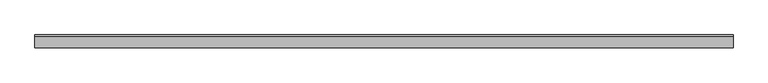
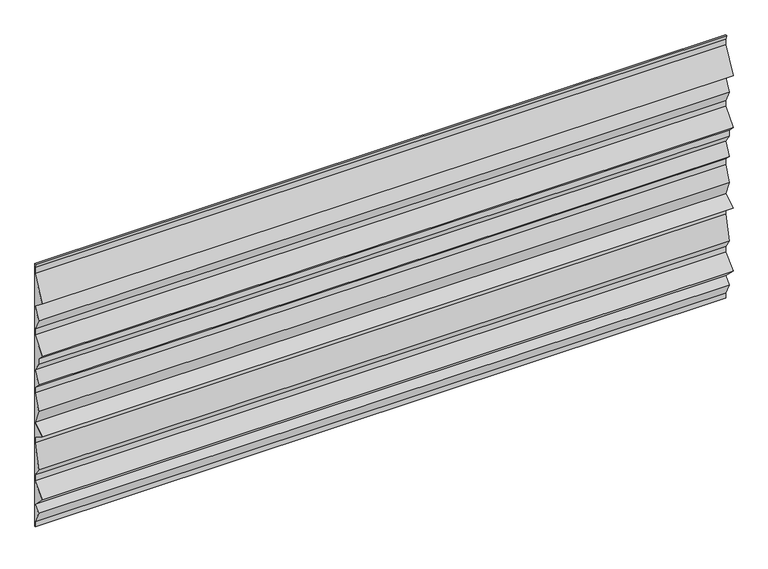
"""IFC4 building model written with IfcOpenShell, lengths in millimetres: plate geometry, ATELIERS 3S_GLACE PISSAILLAS 1000_HORIZONTAL : AZURO."""

from ifc_helpers import new_model, si_unit, frame, origin, place, context, project, spatial, polyline, outline, extrude, source, transform, mapped, element, save


def plate_21100d2b(model_context):
    return source(origin(), model_context, "Body", "SweptSolid", [
        extrude(outline(polyline([(-0.8, 0.0), (-0.8, 16.9163895), (-20.9135393, 57.5498441), (-1.0660999, 76.9962838), (-41.0606602, 116.9908441), (-0.75, 157.3015043), (-0.75, 176.7637624), (-20.8080747, 206.8508744), (-0.75, 287.0831733), (-0.75, 306.5751584), (-41.4150972, 331.9908441), (-0.9292392, 357.2945053), (-20.8077747, 406.9908441), (-0.75, 457.1352809), (-0.75, 476.6801839), (-20.9125704, 496.8427543), (-0.8654665, 536.9369621), (-20.75, 566.7637624), (-20.75, 586.6801839), (-41.009736, 606.9399199), (-0.75, 656.2580964), (-0.75, 675.8137931), (-20.8385255, 715.9908441), (-0.9507458, 755.7664035), (-40.9507458, 785.7664035), (-0.75, 866.1678951), (-0.75, 885.8862432), (-4.7649271, 900.0), (0.0, 900.0), (0.0, 0.0), (-0.8, 0.0)])), frame((-1116.75, 0.0, 0.0), z_axis=(1.0, 0.0, 0.0), x_axis=(0.0, 1.0, 0.0)), (0.0, 0.0, 1.0), 2233.5),
    ])


if __name__ == "__main__":
    model = new_model("IFC4")
    model_context = context("Model", 3, world=origin())
    ifc_project = project(units=[si_unit("LENGTHUNIT", "METRE", prefix="MILLI")], contexts=[model_context])
    site = spatial("IfcSite", under=ifc_project)
    building = spatial("IfcBuilding", under=site)
    placement = place(None, origin())
    plate_shape = plate_21100d2b(model_context)
    element("IfcPlate", 1, ObjectType="ATELIERS 3S_GLACE PISSAILLAS 1000_HORIZONTAL : AZURO", at=placement, inside=building, context=model_context, shape_type="MappedRepresentation", body=[
        mapped(plate_shape, transform((0.0, 0.0, 0.0), x_axis=(1.0, 0.0, 0.0), y_axis=(0.0, 1.0, 0.0), z_axis=(0.0, 0.0, 1.0))),
    ])
    save(model, "model.ifc")
